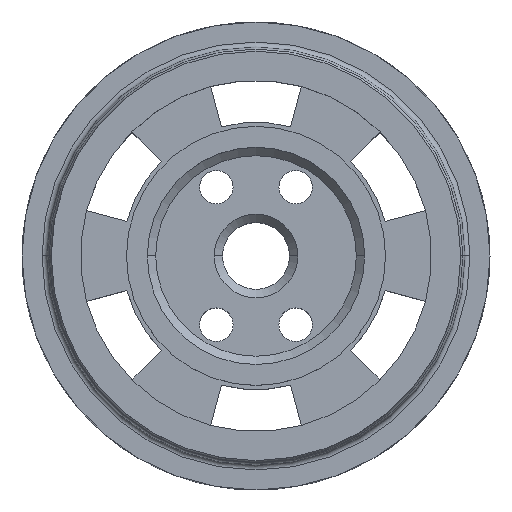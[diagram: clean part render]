
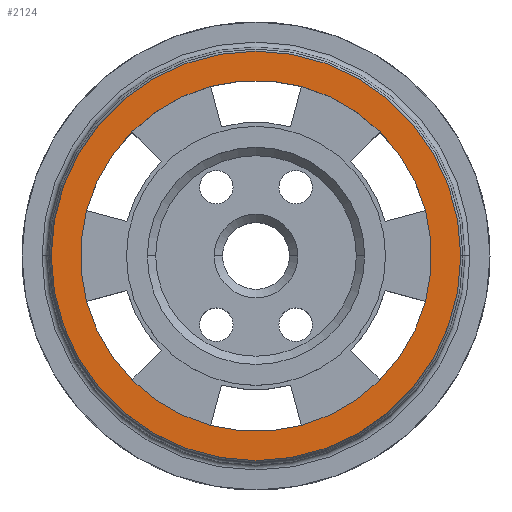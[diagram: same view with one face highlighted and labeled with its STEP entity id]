
A CAD part, top view. The second image highlights one B-rep face of the part: STEP entity #2124.
In plain terms, the highlighted planar face has unit normal (0, 0, 1).
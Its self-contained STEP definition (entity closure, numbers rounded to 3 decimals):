
#1009 = VERTEX_POINT('',#1010);
#1010 = CARTESIAN_POINT('',(10.142,-2.718,7.));
#1016 = EDGE_CURVE('',#1009,#1017,#1019,.T.);
#1017 = VERTEX_POINT('',#1018);
#1018 = CARTESIAN_POINT('',(-10.142,-2.718,7.));
#1019 = CIRCLE('',#1020,10.5);
#1020 = AXIS2_PLACEMENT_3D('',#1021,#1022,#1023);
#1021 = CARTESIAN_POINT('',(0.,0.,7.));
#1022 = DIRECTION('',(0.,0.,-1.));
#1023 = DIRECTION('',(0.966,-0.259,0.));
#2124 = ADVANCED_FACE('',(#2125,#2145),#2155,.T.);
#2125 = FACE_BOUND('',#2126,.F.);
#2126 = EDGE_LOOP('',(#2127,#2138));
#2127 = ORIENTED_EDGE('',*,*,#2128,.F.);
#2128 = EDGE_CURVE('',#2129,#2131,#2133,.T.);
#2129 = VERTEX_POINT('',#2130);
#2130 = CARTESIAN_POINT('',(12.25,0.,7.));
#2131 = VERTEX_POINT('',#2132);
#2132 = CARTESIAN_POINT('',(-12.25,0.,7.));
#2133 = CIRCLE('',#2134,12.25);
#2134 = AXIS2_PLACEMENT_3D('',#2135,#2136,#2137);
#2135 = CARTESIAN_POINT('',(0.,0.,7.));
#2136 = DIRECTION('',(0.,0.,1.));
#2137 = DIRECTION('',(1.,0.,0.));
#2138 = ORIENTED_EDGE('',*,*,#2139,.F.);
#2139 = EDGE_CURVE('',#2131,#2129,#2140,.T.);
#2140 = CIRCLE('',#2141,12.25);
#2141 = AXIS2_PLACEMENT_3D('',#2142,#2143,#2144);
#2142 = CARTESIAN_POINT('',(0.,0.,7.));
#2143 = DIRECTION('',(0.,0.,1.));
#2144 = DIRECTION('',(-1.,0.,0.));
#2145 = FACE_BOUND('',#2146,.F.);
#2146 = EDGE_LOOP('',(#2147,#2154));
#2147 = ORIENTED_EDGE('',*,*,#2148,.F.);
#2148 = EDGE_CURVE('',#1017,#1009,#2149,.T.);
#2149 = CIRCLE('',#2150,10.5);
#2150 = AXIS2_PLACEMENT_3D('',#2151,#2152,#2153);
#2151 = CARTESIAN_POINT('',(0.,0.,7.));
#2152 = DIRECTION('',(0.,0.,-1.));
#2153 = DIRECTION('',(-0.966,-0.259,-0.));
#2154 = ORIENTED_EDGE('',*,*,#1016,.F.);
#2155 = PLANE('',#2156);
#2156 = AXIS2_PLACEMENT_3D('',#2157,#2158,#2159);
#2157 = CARTESIAN_POINT('',(0.,0.,7.));
#2158 = DIRECTION('',(0.,0.,1.));
#2159 = DIRECTION('',(1.,0.,0.));
